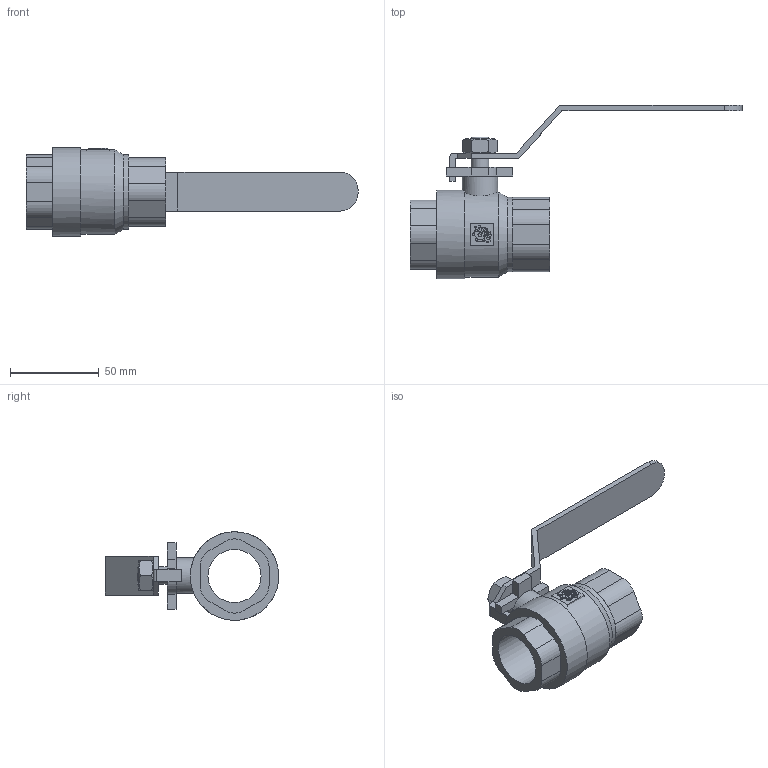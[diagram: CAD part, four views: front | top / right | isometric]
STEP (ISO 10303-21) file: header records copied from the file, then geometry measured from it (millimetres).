
FILE_DESCRIPTION(('STEP AP203'), '1');
FILE_NAME('7014-025-63', '', ('UNSPECIFIED'), ('UNSPECIFIED'), 'C3D Converter', 'C3D Toolkit', '');
FILE_SCHEMA(('CONFIG_CONTROL_DESIGN'));
Length unit declared in the file: millimetre
Bounding box: 187.5 x 97.96 x 49.98 mm (x, y, z)
Volume: 89089.8 mm3; surface area: 32816.2 mm2
Topology: 10 solids, 10 shells, 917 faces, 2678 edges, 1788 vertices
Faces by surface type: plane 890, cylinder 23, cone 3, torus 1
Full cylindrical faces by diameter (mm): 10 x1, 20 x1, 30 x1, 42 x1, 48 x1, 50 x1
Entity records: 37926 total; most frequent: CARTESIAN_POINT 6154, ORIENTED_EDGE 5336, DIRECTION 4548, EDGE_CURVE 2668, LINE 2590, VECTOR 2590, VERTEX_POINT 1788, AXIS2_PLACEMENT_3D 979
